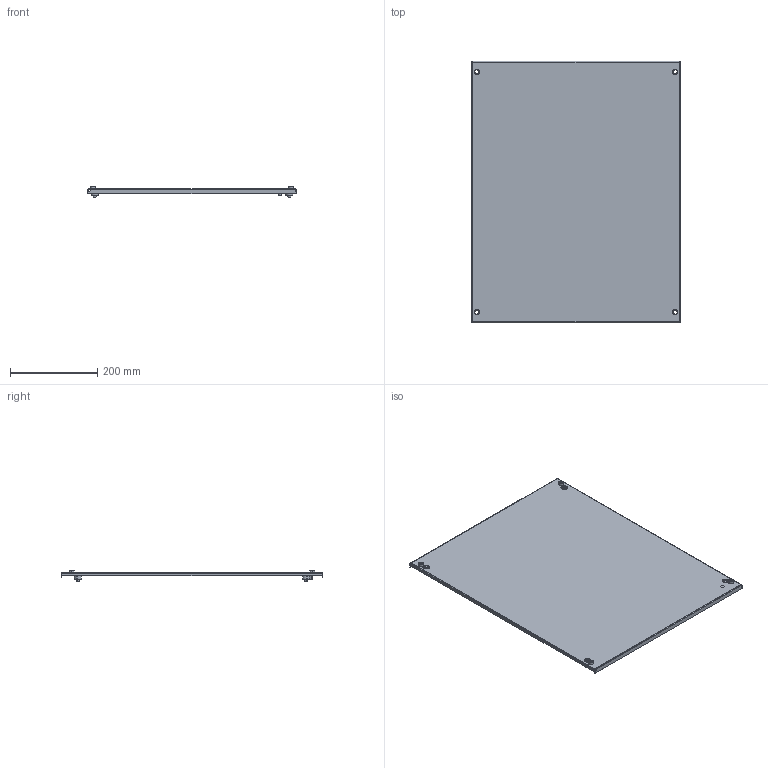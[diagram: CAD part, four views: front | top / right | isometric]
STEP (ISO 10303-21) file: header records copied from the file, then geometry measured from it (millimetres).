
FILE_DESCRIPTION (( 'STEP AP203' ), '1' );
FILE_NAME ('EUPM060060.STEP', '2015-04-22T12:35:21', ( 'Admin' ), ( '' ), 'SwSTEP 2.0', 'SolidWorks 2014', '' );
FILE_SCHEMA (( 'CONFIG_CONTROL_DESIGN' ));
Length unit declared in the file: millimetre
Products named in the file (1): EUPM060060
Bounding box: 477 x 598 x 25.14 mm (x, y, z)
Volume: 459949.6 mm3; surface area: 613412.6 mm2
Topology: 1 solids, 1 shells, 182 faces, 424 edges, 268 vertices
Faces by surface type: cylinder 92, plane 68, cone 10, torus 8, bspline 4
Entity records: 5394 total; most frequent: CARTESIAN_POINT 1026, DIRECTION 961, ORIENTED_EDGE 840, EDGE_CURVE 420, AXIS2_PLACEMENT_3D 375, VERTEX_POINT 268, EDGE_LOOP 222, LINE 211
